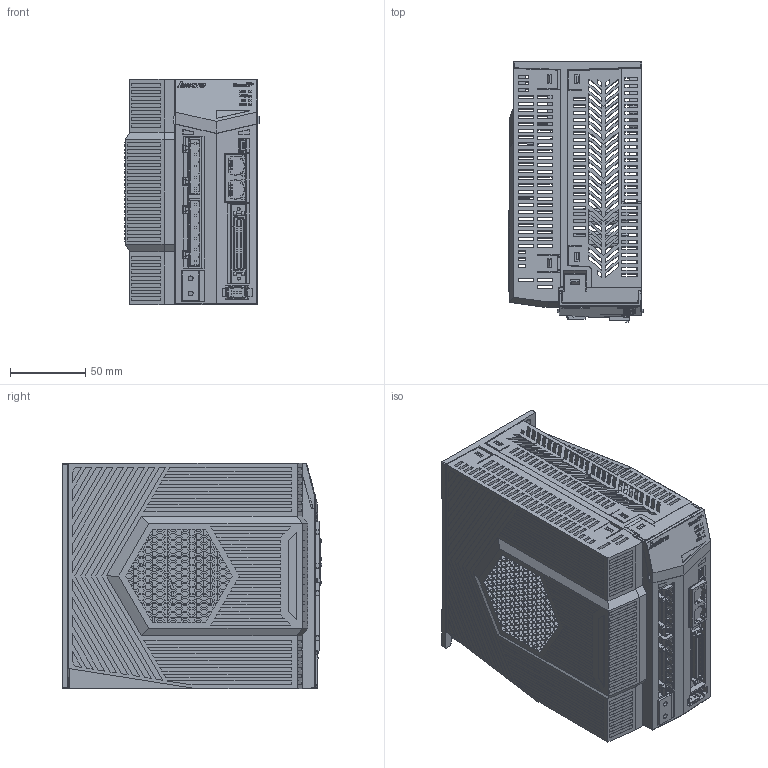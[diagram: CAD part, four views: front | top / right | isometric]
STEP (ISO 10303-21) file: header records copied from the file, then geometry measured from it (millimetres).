
FILE_DESCRIPTION (( 'STEP AP203' ), '1' );
FILE_NAME ('3D芞祧 3倰B1E V1.0.STEP', '2022-10-12T08:02:52', ( 'Microsoft' ), ( 'Microsoft' ), 'SwSTEP 2.0', 'SolidWorks 2020', '' );
FILE_SCHEMA (( 'CONFIG_CONTROL_DESIGN' ));
Products named in the file (1): 3D芞祧 3倰B1E V1.0
Bounding box: 89.2 x 172.97 x 150.3 mm (x, y, z)
Surface area: 229085.6 mm2 (no closed solid volume)
Topology: 0 solids, 111 shells, 4296 faces, 18151 edges, 13652 vertices
Faces by surface type: plane 4088, cylinder 176, bspline 31, cone 1
Entity records: 187394 total; most frequent: CARTESIAN_POINT 45016, ORIENTED_EDGE 26911, DIRECTION 25543, EDGE_CURVE 18151, VECTOR 16191, LINE 16191, VERTEX_POINT 13652, EDGE_LOOP 5223
